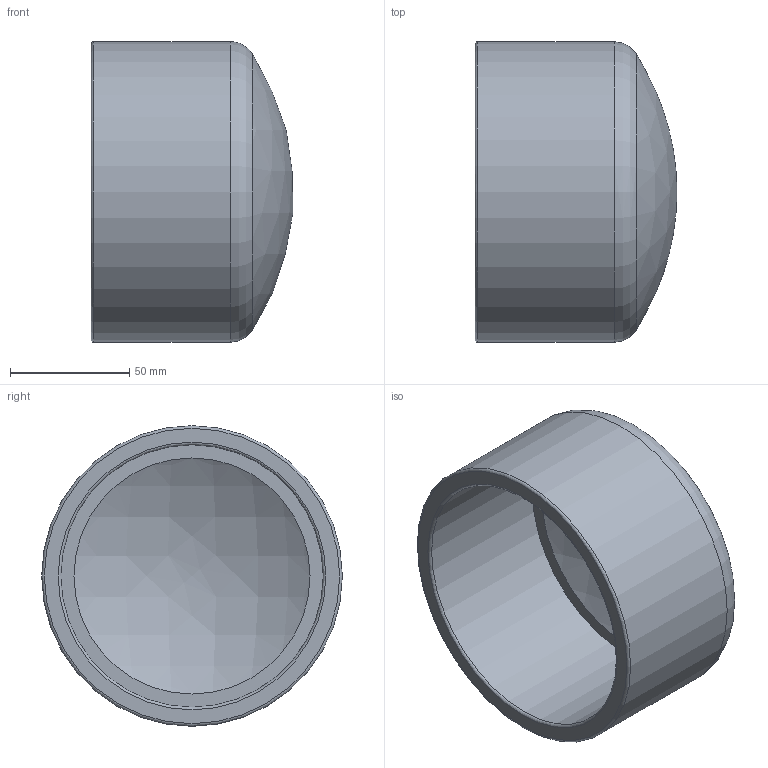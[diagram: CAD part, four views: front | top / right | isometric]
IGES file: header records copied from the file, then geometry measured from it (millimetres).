
Global section: file name: 050700110.ipt; native system: Autodesk Inventor 2015; preprocessor: unknown; author: KIM; date: 20171207.164812; units: millimetre
Bounding box: 84.63 x 126 x 126 mm (x, y, z)
Volume: 297316.5 mm3; surface area: 72634.3 mm2
Topology: 1 solids, 1 shells, 9 faces, 21 edges, 16 vertices
Faces by surface type: revolution 5, plane 2, cylinder 1, sphere 1
Full cylindrical faces by diameter (mm): 126 x1
